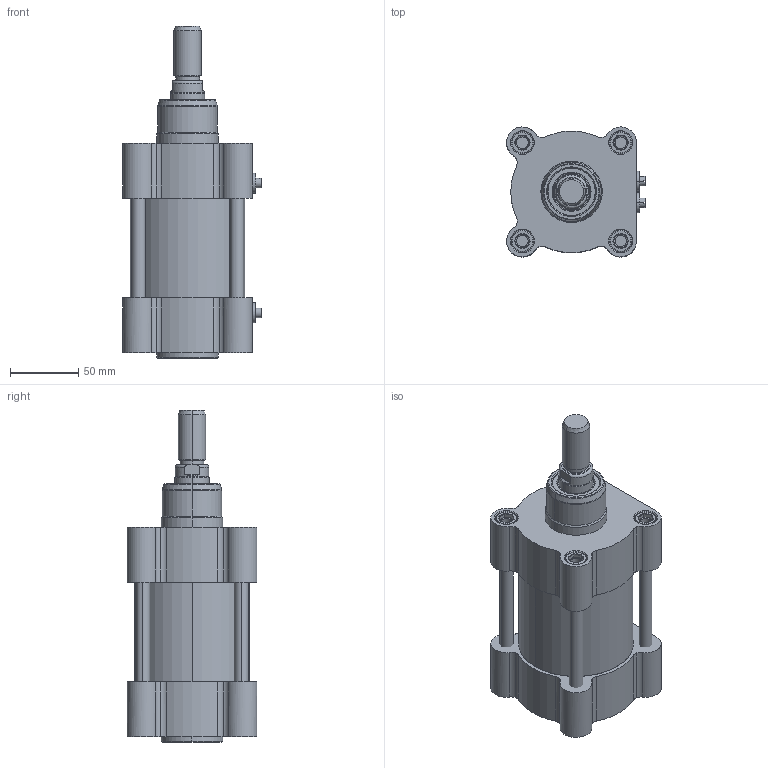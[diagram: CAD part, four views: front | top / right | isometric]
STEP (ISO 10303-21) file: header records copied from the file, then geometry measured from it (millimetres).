
FILE_DESCRIPTION (( 'STEP AP203' ), '1' );
FILE_NAME ('CTMI80-25.STEP', '2020-03-26T19:34:40', ( '' ), ( '' ), 'SwSTEP 2.0', 'SolidWorks 2019', '' );
FILE_SCHEMA (( 'CONFIG_CONTROL_DESIGN' ));
Length unit declared in the file: millimetre
Products named in the file (1): CTMI80-25
Bounding box: 101.5 x 94.99 x 243 mm (x, y, z)
Surface area: 179116.9 mm2 (no closed solid volume)
Topology: 0 solids, 26 shells, 731 faces, 1682 edges, 1038 vertices
Faces by surface type: cone 230, cylinder 204, plane 195, torus 86, bspline 16
Entity records: 28025 total; most frequent: CARTESIAN_POINT 12647, ORIENTED_EDGE 3308, DIRECTION 2906, EDGE_CURVE 1682, AXIS2_PLACEMENT_3D 1202, VERTEX_POINT 1038, EDGE_LOOP 804, FACE_OUTER_BOUND 731
